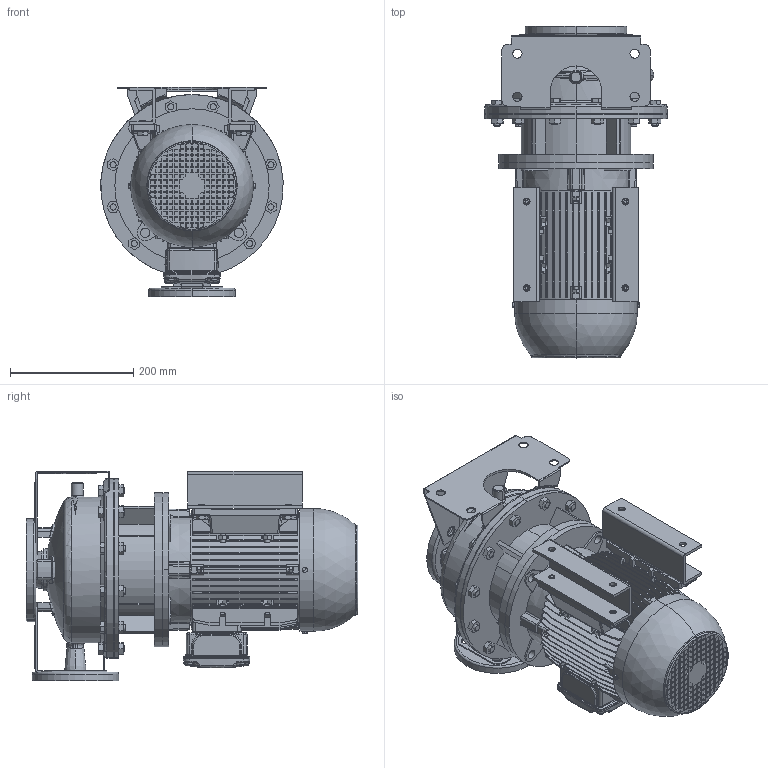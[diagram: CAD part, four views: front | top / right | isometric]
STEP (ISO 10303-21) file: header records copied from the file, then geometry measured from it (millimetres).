
FILE_DESCRIPTION (( 'STEP AP214' ), '1' );
FILE_NAME ('3LS 32-200_3.0_(100L)_W21.STEP', '2026-04-24T06:09:51', ( '' ), ( '' ), 'SwSTEP 2.0', 'SolidWorks 2024', '' );
FILE_SCHEMA (( 'AUTOMOTIVE_DESIGN' ));
Length unit declared in the file: millimetre
Products named in the file (3): 32-200_3_ie2_STEP; 100L ALIE3_W21T_B35; 3LS 32-200_3.0_(100L)_W21
Assembly tree (2 placements, depth 2):
  3LS 32-200_3.0_(100L)_W21
    32-200_3_ie2_STEP
    100L ALIE3_W21T_B35
Bounding box: 295.54 x 538.1 x 340 mm (x, y, z)
Volume: 15020468.2 mm3; surface area: 1576189.3 mm2
Topology: 17 solids, 17 shells, 3463 faces, 9035 edges, 5860 vertices
Faces by surface type: plane 2229, cylinder 744, torus 190, bspline 142, cone 134, sphere 24
Entity records: 153168 total; most frequent: CARTESIAN_POINT 68808, ORIENTED_EDGE 18046, DIRECTION 16563, EDGE_CURVE 9023, LINE 6115, VECTOR 6115, VERTEX_POINT 5860, AXIS2_PLACEMENT_3D 5224
